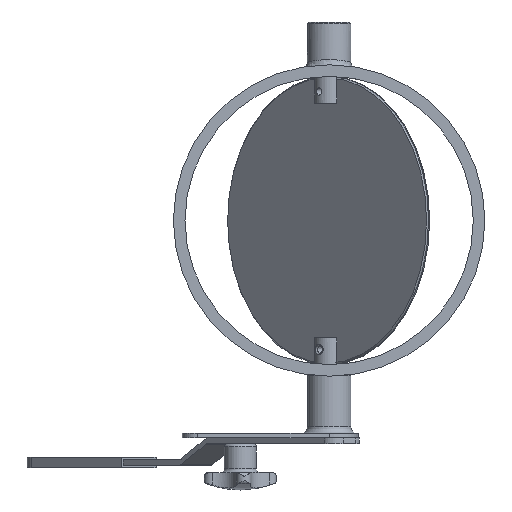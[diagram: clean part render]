
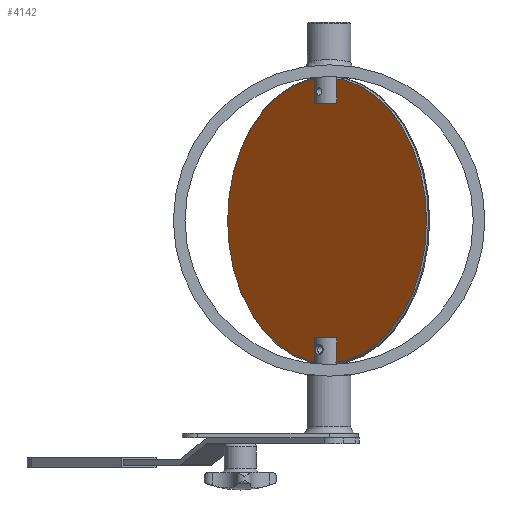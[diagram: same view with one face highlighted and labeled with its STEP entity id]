
A CAD part, front view. The second image highlights one B-rep face of the part: STEP entity #4142.
In plain terms, the highlighted planar face has unit normal (-0.717, -0.697, 0) as drawn and (0, 0, -1) by its records, which use the part's own axes.
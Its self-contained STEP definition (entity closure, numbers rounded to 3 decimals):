
#4100=CARTESIAN_POINT('',(141.557,0.,0.0));
#4101=VERTEX_POINT('',#4100);
#4102=CARTESIAN_POINT('',(43.057,0.,0.0));
#4103=DIRECTION('',(0.0,0.0,1.0));
#4104=DIRECTION('',(-1.0,0.0,0.0));
#4105=AXIS2_PLACEMENT_3D('',#4102,#4103,#4104);
#4106=CIRCLE('',#4105,98.5);
#4107=EDGE_CURVE('',#4101,#4101,#4106,.T.);
#4112=CARTESIAN_POINT('',(43.057,0.,0.0));
#4113=DIRECTION('',(0.0,0.0,-1.0));
#4114=DIRECTION('',(-1.0,0.0,0.0));
#4115=AXIS2_PLACEMENT_3D('',#4112,#4113,#4114);
#4116=PLANE('',#4115);
#4117=ORIENTED_EDGE('',*,*,#4107,.F.);
#4118=EDGE_LOOP('',(#4117));
#4119=FACE_OUTER_BOUND('',#4118,.T.);
#4120=CARTESIAN_POINT('',(-42.943,0.,0.0));
#4121=VERTEX_POINT('',#4120);
#4122=CARTESIAN_POINT('',(-45.943,0.,0.0));
#4123=DIRECTION('',(0.0,0.0,1.0));
#4124=DIRECTION('',(-1.0,0.0,0.0));
#4125=AXIS2_PLACEMENT_3D('',#4122,#4123,#4124);
#4126=CIRCLE('',#4125,3.);
#4127=EDGE_CURVE('',#4121,#4121,#4126,.T.);
#4128=ORIENTED_EDGE('',*,*,#4127,.T.);
#4129=EDGE_LOOP('',(#4128));
#4130=FACE_BOUND('',#4129,.T.);
#4131=CARTESIAN_POINT('',(135.057,0.,0.0));
#4132=VERTEX_POINT('',#4131);
#4133=CARTESIAN_POINT('',(132.057,0.,0.0));
#4134=DIRECTION('',(0.0,0.0,1.0));
#4135=DIRECTION('',(-1.0,0.0,0.0));
#4136=AXIS2_PLACEMENT_3D('',#4133,#4134,#4135);
#4137=CIRCLE('',#4136,3.);
#4138=EDGE_CURVE('',#4132,#4132,#4137,.T.);
#4139=ORIENTED_EDGE('',*,*,#4138,.T.);
#4140=EDGE_LOOP('',(#4139));
#4141=FACE_BOUND('',#4140,.T.);
#4142=ADVANCED_FACE('',(#4119,#4130,#4141),#4116,.T.);
